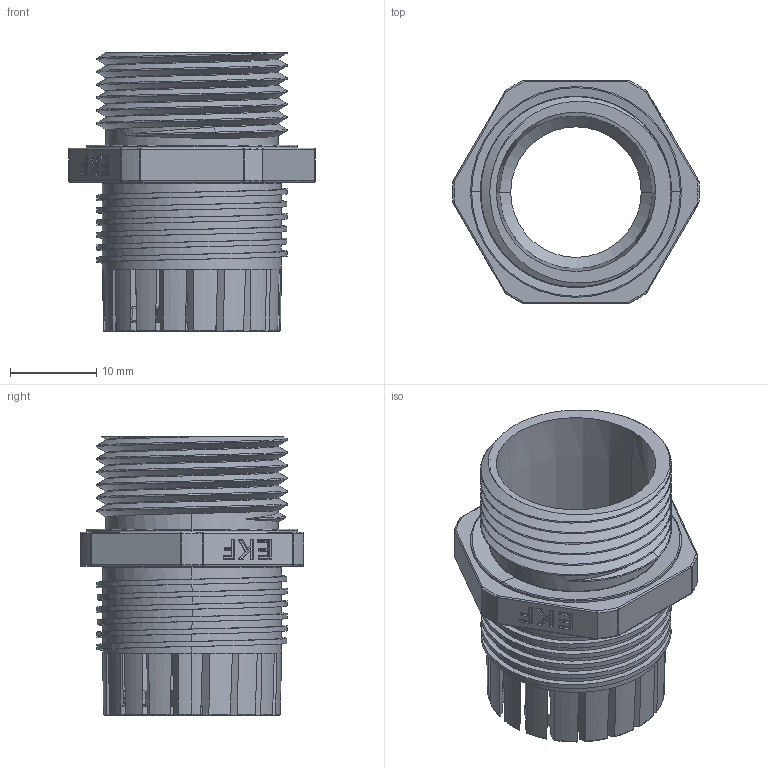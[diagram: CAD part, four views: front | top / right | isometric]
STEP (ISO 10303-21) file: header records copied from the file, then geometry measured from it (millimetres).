
FILE_DESCRIPTION (( 'STEP AP214' ), '1' );
FILE_NAME ('plc-pg-19-00.00.001 昢膼瘔 (PG19) #base (PG19)#.STEP', '2024-04-24T08:45:40', ( '' ), ( '' ), 'SwSTEP 2.0', 'SolidWorks 2021', '' );
FILE_SCHEMA (( 'AUTOMOTIVE_DESIGN' ));
Length unit declared in the file: millimetre
Products named in the file (1): plc-pg-19-00.00.001 昢膼瘔 (PG19) #base (PG19)#
Bounding box: 28.59 x 25.92 x 32.3 mm (x, y, z)
Volume: 3664.8 mm3; surface area: 6061.4 mm2
Topology: 1 solids, 1 shells, 518 faces, 1354 edges, 825 vertices
Faces by surface type: cylinder 133, bspline 124, plane 113, cone 88, torus 60
Entity records: 26768 total; most frequent: CARTESIAN_POINT 14475, ORIENTED_EDGE 2660, DIRECTION 1812, EDGE_CURVE 1330, VERTEX_POINT 825, AXIS2_PLACEMENT_3D 730, EDGE_LOOP 533, ADVANCED_FACE 518
